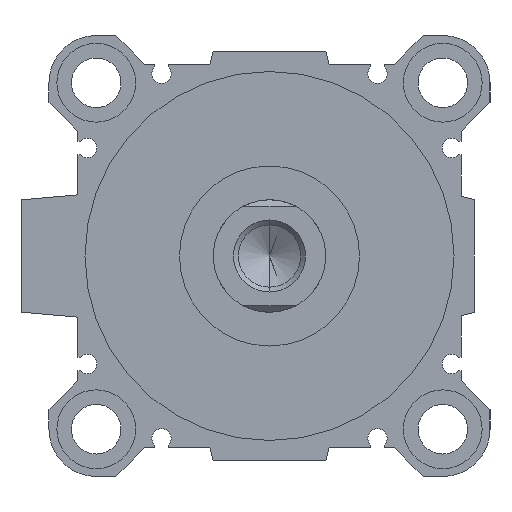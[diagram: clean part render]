
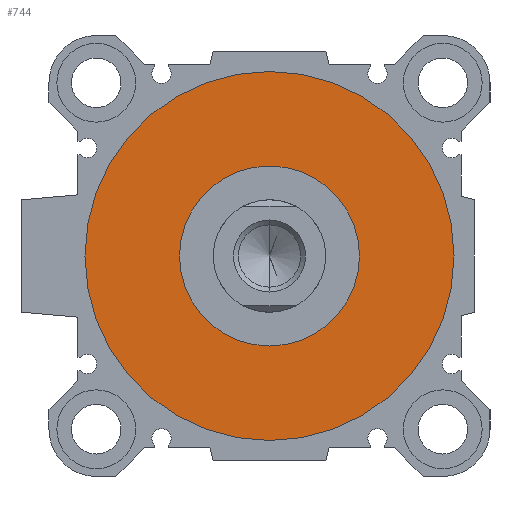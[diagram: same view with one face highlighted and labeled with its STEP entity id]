
A CAD part, left-side view. The second image highlights one B-rep face of the part: STEP entity #744.
In plain terms, the highlighted planar face has unit normal (-1, 0, 0).
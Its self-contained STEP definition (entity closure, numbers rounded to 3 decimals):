
#41 = DIRECTION ( 'NONE',  ( 1., 0., 0. ) ) ;
#129 = CIRCLE ( 'NONE', #660, 41. ) ;
#180 = EDGE_LOOP ( 'NONE', ( #3668, #3306 ) ) ;
#299 = PLANE ( 'NONE',  #1581 ) ;
#660 = AXIS2_PLACEMENT_3D ( 'NONE', #1120, #5287, #5232 ) ;
#666 = CARTESIAN_POINT ( 'NONE',  ( 5., 0., -41. ) ) ;
#707 = FACE_OUTER_BOUND ( 'NONE', #2385, .T. ) ;
#744 = ADVANCED_FACE ( 'NONE', ( #707, #4057 ), #299, .F. ) ;
#802 = VERTEX_POINT ( 'NONE', #2168 ) ;
#838 = EDGE_CURVE ( 'NONE', #3144, #802, #4631, .T. ) ;
#1120 = CARTESIAN_POINT ( 'NONE',  ( 5., 0., 0. ) ) ;
#1281 = DIRECTION ( 'NONE',  ( 0., 0., -1. ) ) ;
#1306 = AXIS2_PLACEMENT_3D ( 'NONE', #3886, #3385, #1281 ) ;
#1319 = DIRECTION ( 'NONE',  ( 0., 0., -1. ) ) ;
#1373 = EDGE_CURVE ( 'NONE', #3845, #2382, #129, .T. ) ;
#1581 = AXIS2_PLACEMENT_3D ( 'NONE', #1798, #41, #3031 ) ;
#1798 = CARTESIAN_POINT ( 'NONE',  ( 5., 0., 0. ) ) ;
#2168 = CARTESIAN_POINT ( 'NONE',  ( 5., 0., 20. ) ) ;
#2169 = CARTESIAN_POINT ( 'NONE',  ( 5., 0., -20. ) ) ;
#2382 = VERTEX_POINT ( 'NONE', #666 ) ;
#2385 = EDGE_LOOP ( 'NONE', ( #3486, #3441 ) ) ;
#2649 = EDGE_CURVE ( 'NONE', #2382, #3845, #3341, .T. ) ;
#3031 = DIRECTION ( 'NONE',  ( 0., 1., 0. ) ) ;
#3144 = VERTEX_POINT ( 'NONE', #2169 ) ;
#3306 = ORIENTED_EDGE ( 'NONE', *, *, #838, .T. ) ;
#3341 = CIRCLE ( 'NONE', #5089, 41. ) ;
#3385 = DIRECTION ( 'NONE',  ( 1., 0., 0. ) ) ;
#3429 = DIRECTION ( 'NONE',  ( 1., 0., 0. ) ) ;
#3441 = ORIENTED_EDGE ( 'NONE', *, *, #2649, .F. ) ;
#3486 = ORIENTED_EDGE ( 'NONE', *, *, #1373, .F. ) ;
#3668 = ORIENTED_EDGE ( 'NONE', *, *, #3827, .T. ) ;
#3827 = EDGE_CURVE ( 'NONE', #802, #3144, #3858, .T. ) ;
#3845 = VERTEX_POINT ( 'NONE', #4278 ) ;
#3858 = CIRCLE ( 'NONE', #5265, 20. ) ;
#3886 = CARTESIAN_POINT ( 'NONE',  ( 5., 0., 0. ) ) ;
#4057 = FACE_BOUND ( 'NONE', #180, .T. ) ;
#4278 = CARTESIAN_POINT ( 'NONE',  ( 5., 0., 41. ) ) ;
#4631 = CIRCLE ( 'NONE', #1306, 20. ) ;
#4916 = DIRECTION ( 'NONE',  ( 1., 0., 0. ) ) ;
#5071 = CARTESIAN_POINT ( 'NONE',  ( 5., 0., 0. ) ) ;
#5089 = AXIS2_PLACEMENT_3D ( 'NONE', #5071, #3429, #1319 ) ;
#5232 = DIRECTION ( 'NONE',  ( 0., 0., -1. ) ) ;
#5265 = AXIS2_PLACEMENT_3D ( 'NONE', #5330, #4916, #5406 ) ;
#5287 = DIRECTION ( 'NONE',  ( 1., 0., 0. ) ) ;
#5330 = CARTESIAN_POINT ( 'NONE',  ( 5., 0., 0. ) ) ;
#5406 = DIRECTION ( 'NONE',  ( 0., 0., -1. ) ) ;
